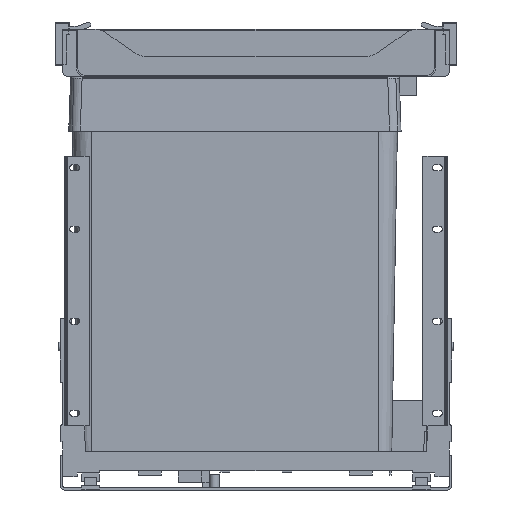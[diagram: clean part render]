
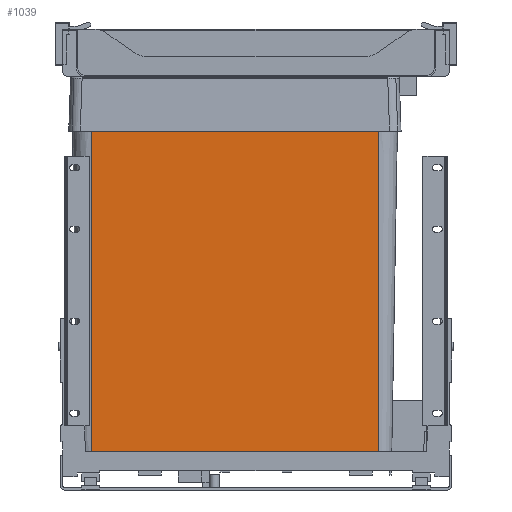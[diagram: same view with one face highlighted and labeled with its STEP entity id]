
A CAD part, front view. The second image highlights one B-rep face of the part: STEP entity #1039.
In plain terms, the highlighted planar face has unit normal (0, -1, -0.018).
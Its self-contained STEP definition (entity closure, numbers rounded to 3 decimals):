
#1039=ADVANCED_FACE('',(#2668),#2669,.T.);
#2668=FACE_OUTER_BOUND('',#5589,.T.);
#2669=PLANE('',#5590);
#5589=EDGE_LOOP('',(#8636,#8637,#8638,#8639,#8640,#8641));
#5590=AXIS2_PLACEMENT_3D('',#8642,#8643,#8644);
#8636=ORIENTED_EDGE('',*,*,#15164,.T.);
#8637=ORIENTED_EDGE('',*,*,#15178,.F.);
#8638=ORIENTED_EDGE('',*,*,#15179,.F.);
#8639=ORIENTED_EDGE('',*,*,#15180,.F.);
#8640=ORIENTED_EDGE('',*,*,#15181,.F.);
#8641=ORIENTED_EDGE('',*,*,#15174,.T.);
#8642=CARTESIAN_POINT('',(127.2,14.2,21.6));
#8643=DIRECTION('',(0.0,-1.,-0.017));
#8644=DIRECTION('',(1.0,0.0,0.0));
#15164=EDGE_CURVE('',#18420,#18418,#18421,.T.);
#15174=EDGE_CURVE('',#18435,#18420,#18436,.T.);
#15178=EDGE_CURVE('',#18441,#18418,#18442,.T.);
#15179=EDGE_CURVE('',#18443,#18441,#18444,.T.);
#15180=EDGE_CURVE('',#18445,#18443,#18446,.T.);
#15181=EDGE_CURVE('',#18435,#18445,#18447,.T.);
#18418=VERTEX_POINT('',#22864);
#18420=VERTEX_POINT('',#22866);
#18421=LINE('',#22867,#22868);
#18435=VERTEX_POINT('',#22886);
#18436=LINE('',#22887,#22888);
#18441=VERTEX_POINT('',#22894);
#18442=LINE('',#22895,#22896);
#18443=VERTEX_POINT('',#22897);
#18444=LINE('',#22898,#22899);
#18445=VERTEX_POINT('',#22900);
#18446=LINE('',#22901,#22902);
#18447=LINE('',#22903,#22904);
#22864=CARTESIAN_POINT('',(-171.2,8.046,374.17));
#22866=CARTESIAN_POINT('',(127.2,8.046,374.17));
#22867=CARTESIAN_POINT('',(52.6,8.046,374.17));
#22868=VECTOR('',#28131,10.0);
#22886=CARTESIAN_POINT('',(127.2,14.2,21.6));
#22887=CARTESIAN_POINT('',(127.2,14.2,21.6));
#22888=VECTOR('',#28145,10.0);
#22894=CARTESIAN_POINT('',(-171.2,14.09,27.905));
#22895=CARTESIAN_POINT('',(-171.2,14.2,21.6));
#22896=VECTOR('',#28150,10.0);
#22897=CARTESIAN_POINT('',(-165.063,14.113,26.6));
#22898=CARTESIAN_POINT('',(-28.867,14.618,-2.349));
#22899=VECTOR('',#28151,10.0);
#22900=CARTESIAN_POINT('',(-164.0,14.2,21.6));
#22901=CARTESIAN_POINT('',(-158.264,14.671,-5.384));
#22902=VECTOR('',#28152,10.0);
#22903=CARTESIAN_POINT('',(-18.4,14.2,21.6));
#22904=VECTOR('',#28153,10.0);
#28131=DIRECTION('',(-1.0,0.,0.));
#28145=DIRECTION('',(0.0,-0.017,1.));
#28150=DIRECTION('',(0.0,-0.017,1.));
#28151=DIRECTION('',(-0.978,-0.004,0.208));
#28152=DIRECTION('',(-0.208,-0.017,0.978));
#28153=DIRECTION('',(-1.0,-0.0,0.0));
